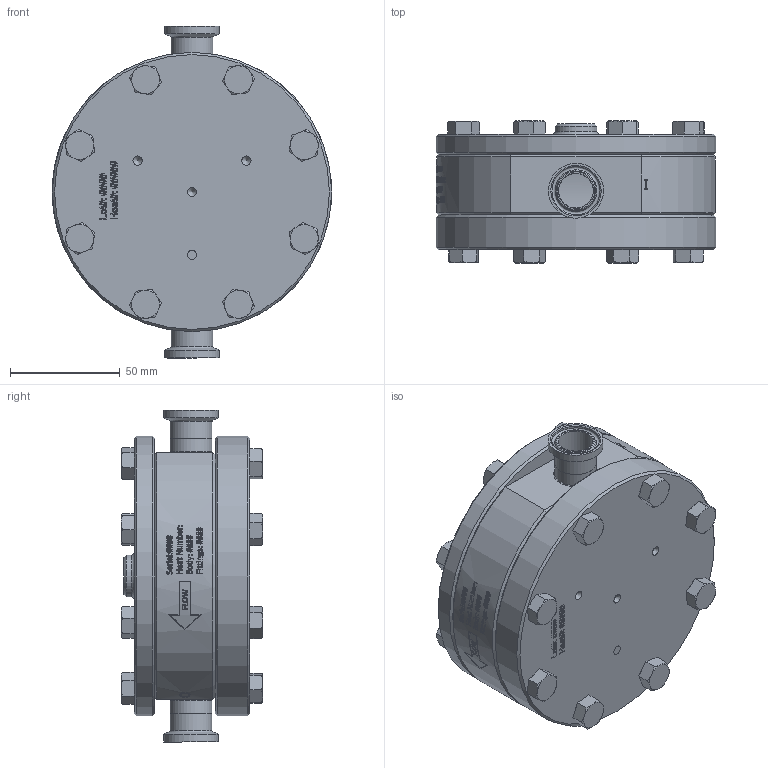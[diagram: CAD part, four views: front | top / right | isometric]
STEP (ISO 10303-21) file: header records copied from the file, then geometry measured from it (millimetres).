
FILE_DESCRIPTION(/* description */ (''),/* implementation_level */ '2;1');
FILE_NAME(/* name */ 'FDO6SHN4A Marketing External Assembly.stp',/* time_stamp */ '2024-08-19T12:04:01-04:00',/* author */ ('mkowall'),/* organization */ (''),/* preprocessor_version */ 'ST-DEVELOPER v19.2',/* originating_system */ 'Autodesk Inventor 2023',/* authorisation */ '');
FILE_SCHEMA (('AUTOMOTIVE_DESIGN { 1 0 10303 214 3 1 1 }'));
Length unit declared in the file: inch
Products named in the file (1): FDO6SHN4A Marketing External Assembly_Simplify_1
Bounding box: 127 x 64.44 x 150.95 mm (x, y, z)
Volume: 669679.7 mm3; surface area: 128281.8 mm2
Topology: 21 solids, 25 shells, 2843 faces, 7581 edges, 4969 vertices
Faces by surface type: plane 1659, bspline 801, cone 184, cylinder 170, torus 29
Full cylindrical faces by diameter (mm): 6.782 x8, 7.938 x16, 7.95 x1, 8.204 x16, 8.23 x8, 12.7 x16, 15.748 x4, 19.05 x5, 21.895 x2, 24.994 x2, 101.6 x1, 127 x2
Entity records: 117041 total; most frequent: CARTESIAN_POINT 51498, ORIENTED_EDGE 15144, DIRECTION 10833, EDGE_CURVE 7572, VERTEX_POINT 4969, LINE 4511, VECTOR 4511, AXIS2_PLACEMENT_3D 3161
